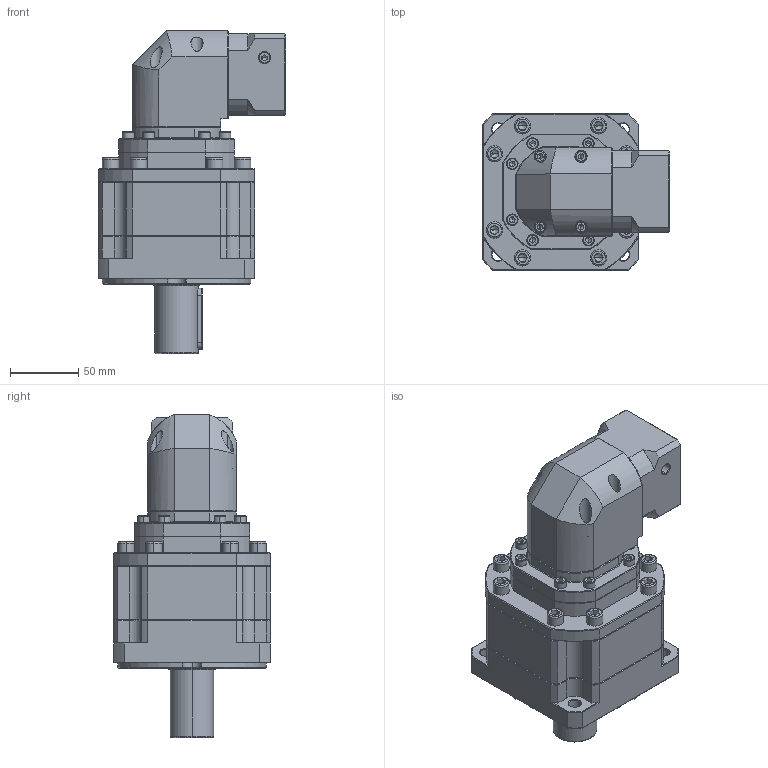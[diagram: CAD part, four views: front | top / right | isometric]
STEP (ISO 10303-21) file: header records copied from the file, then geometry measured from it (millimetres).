
FILE_DESCRIPTION (( 'STEP AP214' ), '1' );
FILE_NAME ('ZBR115A-D32-L3-P2-6.35-38.1-47.14x47.14-M4.step', '2023-08-26T14:07:41', ( '' ), ( '' ), 'SwSTEP 2.0', 'SolidWorks 2016', '' );
FILE_SCHEMA (( 'AUTOMOTIVE_DESIGN' ));
Length unit declared in the file: millimetre
Products named in the file (1): ZBR115A-D32-L3-P2-6.35-38.1-47.14x47.14-M4
Bounding box: 137.7 x 115 x 237.5 mm (x, y, z)
Volume: 1572615.4 mm3; surface area: 147369.7 mm2
Topology: 6 solids, 6 shells, 2633 faces, 6907 edges, 4395 vertices
Faces by surface type: plane 1300, cylinder 479, bspline 455, cone 391, torus 8
Entity records: 134948 total; most frequent: CARTESIAN_POINT 44749, ORIENTED_EDGE 13690, DIRECTION 11104, EDGE_CURVE 6845, VERTEX_POINT 4395, LINE 4348, VECTOR 4348, AXIS2_PLACEMENT_3D 3378
